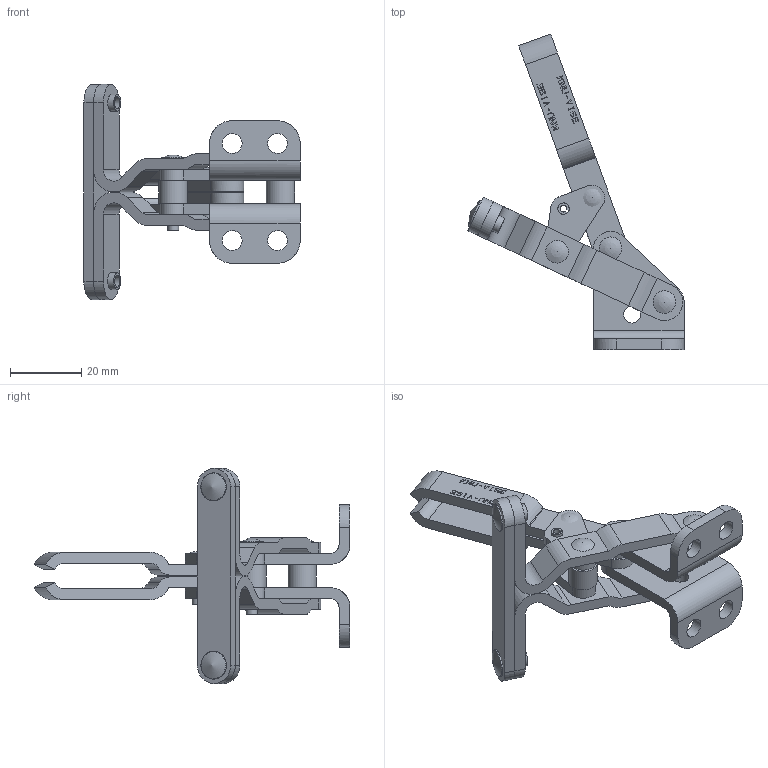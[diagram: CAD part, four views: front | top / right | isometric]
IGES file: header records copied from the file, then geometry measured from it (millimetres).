
Global section: file name: T-220 Open; native system: Autodesk RealDWG; preprocessor: Autodesk Translation Framework DWG producer (atf_dwg_producer); author: Nick; organization: unknown; date: 20150901.170813; units: inch
Bounding box: 60.64 x 88.5 x 60.28 mm (x, y, z)
Volume: 18693.2 mm3; surface area: 18376.2 mm2
Topology: 18 solids, 18 shells, 606 faces, 1654 edges, 1118 vertices
Faces by surface type: bspline 606
